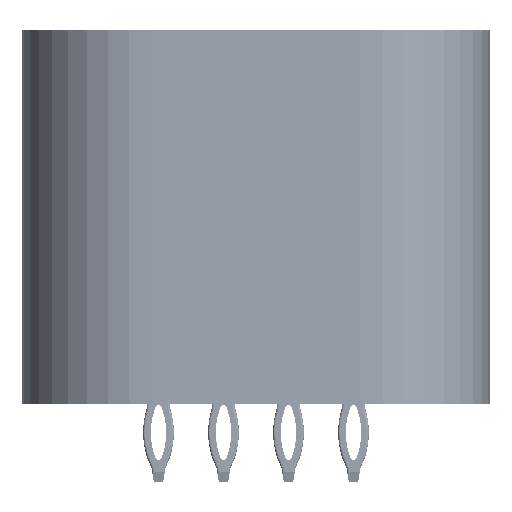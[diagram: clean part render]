
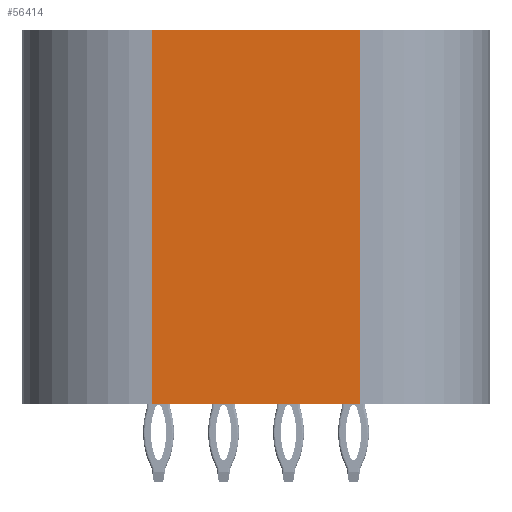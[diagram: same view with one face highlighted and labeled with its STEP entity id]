
A CAD part, left-side view. The second image highlights one B-rep face of the part: STEP entity #56414.
In plain terms, the highlighted planar face has unit normal (-1, 0, 0).
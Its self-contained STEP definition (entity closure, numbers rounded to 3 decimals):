
#56414=ADVANCED_FACE('',(#67500),#64212,.T.);
#64212=PLANE('',#182713);
#67500=FACE_OUTER_BOUND('',#75206,.T.);
#75206=EDGE_LOOP('',(#84604,#84605,#84606,#84607));
#84604=ORIENTED_EDGE('',*,*,#139352,.T.);
#84605=ORIENTED_EDGE('',*,*,#139199,.F.);
#84606=ORIENTED_EDGE('',*,*,#139354,.T.);
#84607=ORIENTED_EDGE('',*,*,#139355,.T.);
#125925=VERTEX_POINT('',#246792);
#125926=VERTEX_POINT('',#246794);
#126046=VERTEX_POINT('',#247104);
#126047=VERTEX_POINT('',#247108);
#139199=EDGE_CURVE('',#125925,#125926,#159803,.T.);
#139352=EDGE_CURVE('',#126046,#125926,#159913,.T.);
#139354=EDGE_CURVE('',#125925,#126047,#159914,.T.);
#139355=EDGE_CURVE('',#126047,#126046,#159915,.T.);
#159803=LINE('',#246793,#171322);
#159913=LINE('',#247103,#171432);
#159914=LINE('',#247107,#171433);
#159915=LINE('',#247109,#171434);
#171322=VECTOR('',#200679,1.);
#171432=VECTOR('',#200937,1.);
#171433=VECTOR('',#200942,1.);
#171434=VECTOR('',#200943,1.);
#182713=AXIS2_PLACEMENT_3D('',#247110,#200944,#200945);
#200679=DIRECTION('',(0.,1.,0.));
#200937=DIRECTION('',(0.,0.,-1.));
#200942=DIRECTION('',(0.,0.,1.));
#200943=DIRECTION('',(0.,1.,0.));
#200944=DIRECTION('',(-1.,0.,0.));
#200945=DIRECTION('',(0.,-1.,0.));
#246792=CARTESIAN_POINT('',(-41.75,-4.,-5.69));
#246793=CARTESIAN_POINT('',(-41.75,-4.,-5.69));
#246794=CARTESIAN_POINT('',(-41.75,4.,-5.69));
#247103=CARTESIAN_POINT('',(-41.75,4.,8.69));
#247104=CARTESIAN_POINT('',(-41.75,4.,8.69));
#247107=CARTESIAN_POINT('',(-41.75,-4.,-5.69));
#247108=CARTESIAN_POINT('',(-41.75,-4.,8.69));
#247109=CARTESIAN_POINT('',(-41.75,-4.,8.69));
#247110=CARTESIAN_POINT('',(-41.75,9.,-5.69));
